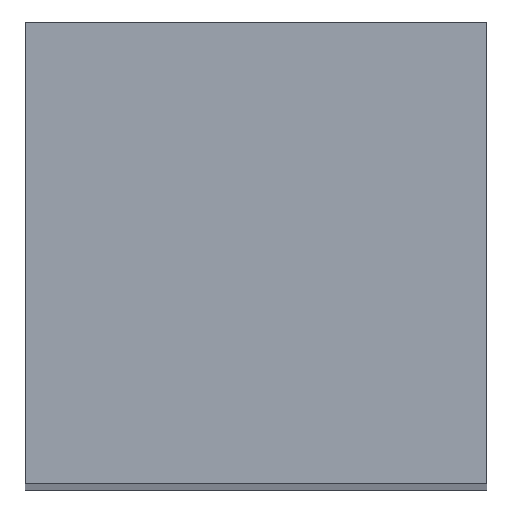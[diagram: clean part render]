
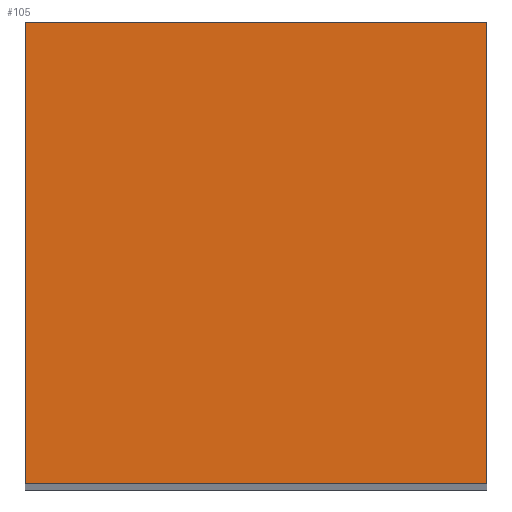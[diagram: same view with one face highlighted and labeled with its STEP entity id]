
A CAD part, top view. The second image highlights one B-rep face of the part: STEP entity #105.
In plain terms, the highlighted planar face has unit normal (0, 0, 1).
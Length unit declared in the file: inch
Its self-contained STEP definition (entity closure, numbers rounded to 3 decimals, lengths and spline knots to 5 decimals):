
#19=FACE_OUTER_BOUND('',#25,.T.);
#25=EDGE_LOOP('',(#87,#88,#89,#90));
#29=LINE('',#149,#41);
#32=LINE('',#155,#44);
#35=LINE('',#161,#47);
#38=LINE('',#165,#50);
#41=VECTOR('',#121,0.1875);
#44=VECTOR('',#126,0.1875);
#47=VECTOR('',#131,0.1875);
#50=VECTOR('',#136,0.1875);
#53=VERTEX_POINT('',#146);
#54=VERTEX_POINT('',#148);
#56=VERTEX_POINT('',#154);
#58=VERTEX_POINT('',#160);
#61=EDGE_CURVE('',#54,#53,#29,.T.);
#64=EDGE_CURVE('',#56,#54,#32,.T.);
#67=EDGE_CURVE('',#58,#56,#35,.T.);
#70=EDGE_CURVE('',#53,#58,#38,.T.);
#87=ORIENTED_EDGE('',*,*,#70,.T.);
#88=ORIENTED_EDGE('',*,*,#67,.T.);
#89=ORIENTED_EDGE('',*,*,#64,.T.);
#90=ORIENTED_EDGE('',*,*,#61,.T.);
#99=PLANE('',#113);
#105=ADVANCED_FACE('',(#19),#99,.T.);
#113=AXIS2_PLACEMENT_3D('',#166,#137,#138);
#121=DIRECTION('',(0.,-1.,0.));
#126=DIRECTION('',(-1.,0.,0.));
#131=DIRECTION('',(0.,1.,0.));
#136=DIRECTION('',(1.,0.,0.));
#137=DIRECTION('center_axis',(0.,0.,1.));
#138=DIRECTION('ref_axis',(1.,0.,0.));
#146=CARTESIAN_POINT('',(0.,0.,1.5));
#148=CARTESIAN_POINT('',(0.,0.1875,1.5));
#149=CARTESIAN_POINT('',(0.,0.1875,1.5));
#154=CARTESIAN_POINT('',(0.1875,0.1875,1.5));
#155=CARTESIAN_POINT('',(0.1875,0.1875,1.5));
#160=CARTESIAN_POINT('',(0.1875,0.,1.5));
#161=CARTESIAN_POINT('',(0.1875,0.,1.5));
#165=CARTESIAN_POINT('',(0.,0.,1.5));
#166=CARTESIAN_POINT('Origin',(0.09375,0.09375,1.5));
